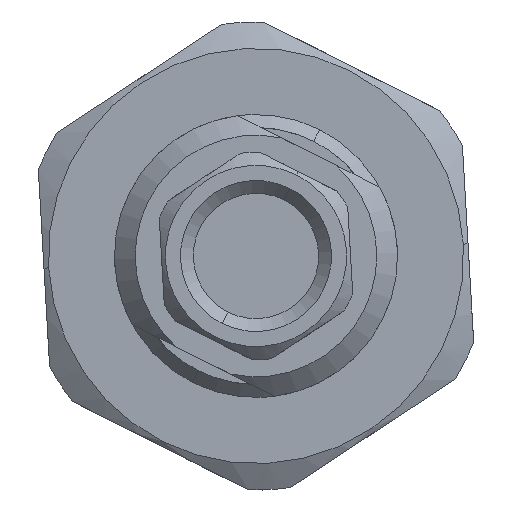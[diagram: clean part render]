
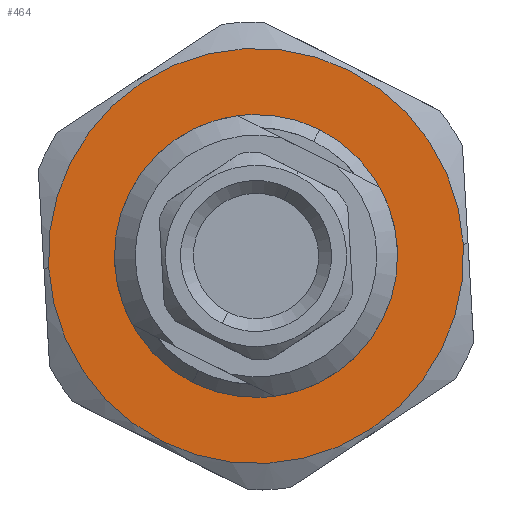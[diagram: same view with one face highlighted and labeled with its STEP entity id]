
A CAD part, left-side view. The second image highlights one B-rep face of the part: STEP entity #464.
In plain terms, the highlighted planar face has unit normal (-1, 0, 0).
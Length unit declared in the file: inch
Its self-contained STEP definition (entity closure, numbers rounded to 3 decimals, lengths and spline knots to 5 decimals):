
#64 = CIRCLE ( 'NONE', #136, 0.1875 ) ;
#69 = AXIS2_PLACEMENT_3D ( 'NONE', #1205, #1206, #1207 ) ;
#136 = AXIS2_PLACEMENT_3D ( 'NONE', #1221, #1222, #1223 ) ;
#169 = CIRCLE ( 'NONE', #69, 0.275 ) ;
#188 = AXIS2_PLACEMENT_3D ( 'NONE', #1908, #1909, #1910 ) ;
#198 = CIRCLE ( 'NONE', #188, 0.275 ) ;
#260 = EDGE_CURVE ( 'NONE', #3551, #3331, #420, .T. ) ;
#420 = CIRCLE ( 'NONE', #427, 0.1875 ) ;
#427 = AXIS2_PLACEMENT_3D ( 'NONE', #3477, #3421, #3424 ) ;
#464 = ADVANCED_FACE ( 'NONE', ( #2367, #2368 ), #2369, .F. ) ;
#643 = EDGE_LOOP ( 'NONE', ( #935, #966 ) ) ;
#775 = EDGE_LOOP ( 'NONE', ( #923, #933 ) ) ;
#823 = EDGE_CURVE ( 'NONE', #3371, #3633, #169, .T. ) ;
#827 = EDGE_CURVE ( 'NONE', #3331, #3551, #64, .T. ) ;
#923 = ORIENTED_EDGE ( 'NONE', *, *, #260, .T. ) ;
#933 = ORIENTED_EDGE ( 'NONE', *, *, #827, .T. ) ;
#935 = ORIENTED_EDGE ( 'NONE', *, *, #3686, .T. ) ;
#966 = ORIENTED_EDGE ( 'NONE', *, *, #823, .T. ) ;
#1205 = CARTESIAN_POINT ( 'NONE',  ( -0.74996, 0.23227, -0.31111 ) ) ;
#1206 = DIRECTION ( 'NONE',  ( -1., 0., 0. ) ) ;
#1207 = DIRECTION ( 'NONE',  ( 0., -0.998, 0.057 ) ) ;
#1221 = CARTESIAN_POINT ( 'NONE',  ( -0.74996, 0.23227, -0.31111 ) ) ;
#1222 = DIRECTION ( 'NONE',  ( 1., 0., 0. ) ) ;
#1223 = DIRECTION ( 'NONE',  ( 0., 0., -1. ) ) ;
#1639 = CARTESIAN_POINT ( 'NONE',  ( -0.74996, 0.31658, -0.47858 ) ) ;
#1669 = CARTESIAN_POINT ( 'NONE',  ( -0.74996, 0.50682, -0.32683 ) ) ;
#1682 = CARTESIAN_POINT ( 'NONE',  ( -0.74996, 0.14795, -0.14363 ) ) ;
#1690 = CARTESIAN_POINT ( 'NONE',  ( -0.74996, -0.04228, -0.29538 ) ) ;
#1908 = CARTESIAN_POINT ( 'NONE',  ( -0.74996, 0.23227, -0.31111 ) ) ;
#1909 = DIRECTION ( 'NONE',  ( -1., 0., 0. ) ) ;
#1910 = DIRECTION ( 'NONE',  ( 0., -0.998, 0.057 ) ) ;
#2363 = CARTESIAN_POINT ( 'NONE',  ( -0.74996, 0.23227, -0.31111 ) ) ;
#2367 = FACE_OUTER_BOUND ( 'NONE', #643, .T. ) ;
#2368 = FACE_BOUND ( 'NONE', #775, .T. ) ;
#2369 = PLANE ( 'NONE',  #2879 ) ;
#2371 = DIRECTION ( 'NONE',  ( 1., 0., 0. ) ) ;
#2372 = DIRECTION ( 'NONE',  ( 0., 0.998, -0.057 ) ) ;
#2879 = AXIS2_PLACEMENT_3D ( 'NONE', #2363, #2371, #2372 ) ;
#3331 = VERTEX_POINT ( 'NONE', #1639 ) ;
#3371 = VERTEX_POINT ( 'NONE', #1669 ) ;
#3421 = DIRECTION ( 'NONE',  ( 1., 0., 0. ) ) ;
#3424 = DIRECTION ( 'NONE',  ( 0., 0., -1. ) ) ;
#3477 = CARTESIAN_POINT ( 'NONE',  ( -0.74996, 0.23227, -0.31111 ) ) ;
#3551 = VERTEX_POINT ( 'NONE', #1682 ) ;
#3633 = VERTEX_POINT ( 'NONE', #1690 ) ;
#3686 = EDGE_CURVE ( 'NONE', #3633, #3371, #198, .T. ) ;
